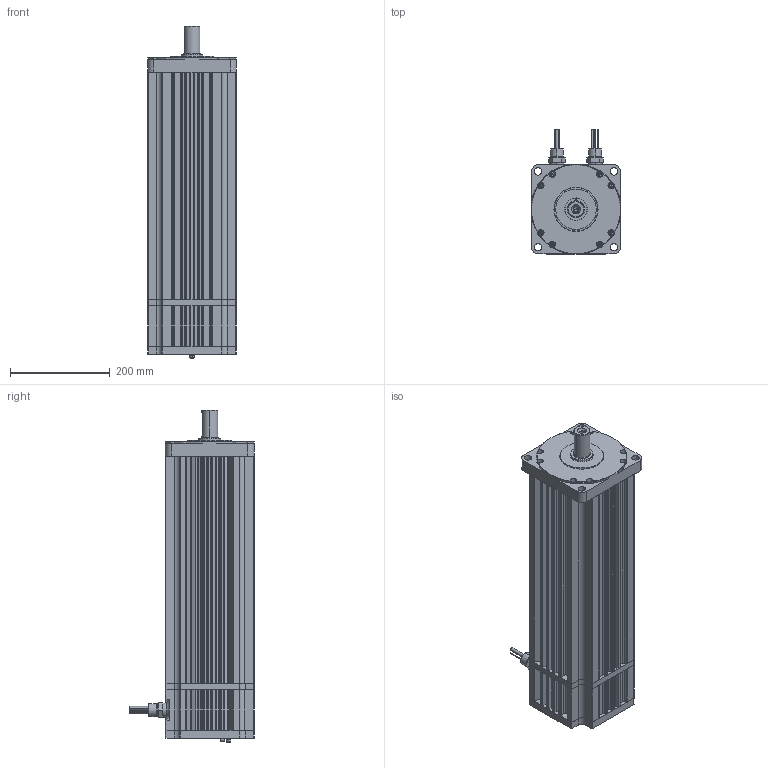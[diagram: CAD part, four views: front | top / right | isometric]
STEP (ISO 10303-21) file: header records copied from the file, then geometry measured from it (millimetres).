
FILE_DESCRIPTION (( 'STEP AP203' ), '1' );
FILE_NAME ('M477-xNSB-Cxx8.STEP', '2014-09-15T14:17:36', ( '' ), ( '' ), 'SwSTEP 2.0', 'SolidWorks 2014', '' );
FILE_SCHEMA (( 'CONFIG_CONTROL_DESIGN' ));
Products named in the file (1): M477-xNSB-Cxx8
Bounding box: 177.8 x 248.92 x 664.82 mm (x, y, z)
Volume: 7869242.9 mm3; surface area: 1326577.1 mm2
Topology: 54 solids, 54 shells, 3057 faces, 7825 edges, 4965 vertices
Faces by surface type: cylinder 1385, plane 1100, cone 334, torus 178, bspline 60
Entity records: 97063 total; most frequent: CARTESIAN_POINT 21372, DIRECTION 16665, ORIENTED_EDGE 15450, EDGE_CURVE 7725, AXIS2_PLACEMENT_3D 6378, VERTEX_POINT 4965, LINE 3909, VECTOR 3909
